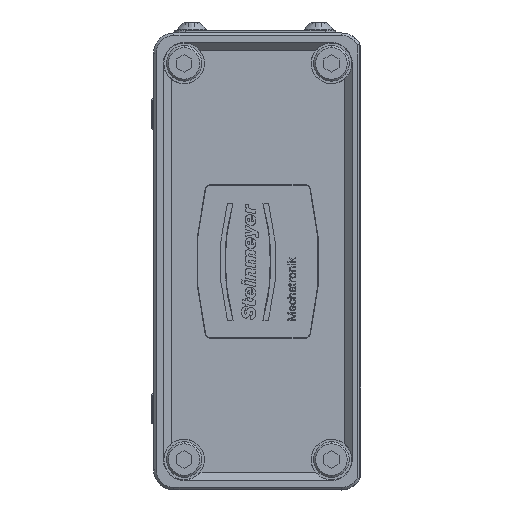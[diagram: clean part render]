
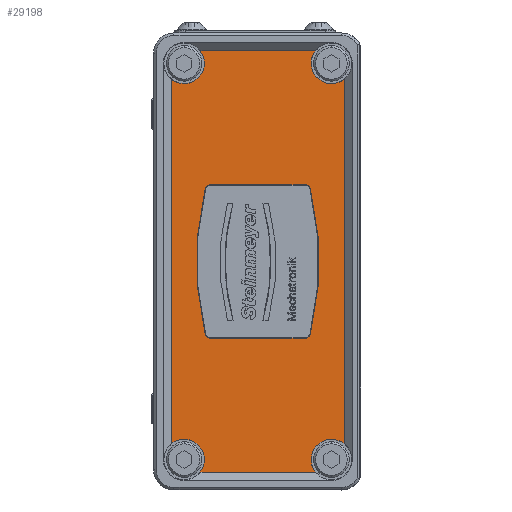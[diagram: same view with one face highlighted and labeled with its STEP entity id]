
A CAD part, left-side view. The second image highlights one B-rep face of the part: STEP entity #29198.
In plain terms, the highlighted planar face has unit normal (-1, 0, 0) as drawn and (0, 0, 1) by its records, which use the part's own axes.
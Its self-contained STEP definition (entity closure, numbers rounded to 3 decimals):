
#4789=CARTESIAN_POINT('',(-39.,6.,117.));
#4790=DIRECTION('',(0.,0.,1.));
#4791=DIRECTION('',(0.781,-0.625,0.));
#4792=AXIS2_PLACEMENT_3D('',#4789,#4790,#4791);
#4797=CARTESIAN_POINT('',(-39.,6.,117.));
#4798=DIRECTION('',(0.,0.,1.));
#4799=DIRECTION('',(0.,1.,0.));
#4800=AXIS2_PLACEMENT_3D('',#4797,#4798,#4799);
#4805=DIRECTION('',(0.,1.,0.));
#4806=VECTOR('',#4805,22.755);
#4807=CARTESIAN_POINT('',(-41.5,9.122,117.));
#4808=LINE('1429',#4807,#4806);
#4812=CARTESIAN_POINT('',(-39.,35.,117.));
#4813=DIRECTION('',(0.,0.,1.));
#4814=DIRECTION('',(-0.625,-0.781,0.));
#4815=AXIS2_PLACEMENT_3D('',#4812,#4813,#4814);
#4820=CARTESIAN_POINT('',(-39.,35.,117.));
#4821=DIRECTION('',(0.,0.,1.));
#4822=DIRECTION('',(0.,-1.,0.));
#4823=AXIS2_PLACEMENT_3D('',#4820,#4821,#4822);
#4828=DIRECTION('',(1.,0.,0.));
#4829=VECTOR('',#4828,71.755);
#4830=CARTESIAN_POINT('',(-35.878,37.5,117.));
#4831=LINE('1432',#4830,#4829);
#4835=CARTESIAN_POINT('',(39.,35.,117.));
#4836=DIRECTION('',(0.,0.,1.));
#4837=DIRECTION('',(-0.781,0.625,0.));
#4838=AXIS2_PLACEMENT_3D('',#4835,#4836,#4837);
#4843=CARTESIAN_POINT('',(39.,35.,117.));
#4844=DIRECTION('',(0.,0.,1.));
#4845=DIRECTION('',(0.,-1.,0.));
#4846=AXIS2_PLACEMENT_3D('',#4843,#4844,#4845);
#4851=DIRECTION('',(0.,-1.,0.));
#4852=VECTOR('',#4851,22.755);
#4853=CARTESIAN_POINT('',(41.5,31.878,117.));
#4854=LINE('1434',#4853,#4852);
#4858=CARTESIAN_POINT('',(39.,6.,117.));
#4859=DIRECTION('',(0.,0.,1.));
#4860=DIRECTION('',(0.625,0.781,0.));
#4861=AXIS2_PLACEMENT_3D('',#4858,#4859,#4860);
#4866=CARTESIAN_POINT('',(39.,6.,117.));
#4867=DIRECTION('',(0.,0.,1.));
#4868=DIRECTION('',(0.,1.,0.));
#4869=AXIS2_PLACEMENT_3D('',#4866,#4867,#4868);
#4874=DIRECTION('',(-1.,0.,0.));
#4875=VECTOR('',#4874,71.755);
#4876=CARTESIAN_POINT('',(35.878,3.5,117.));
#4877=LINE('1437',#4876,#4875);
#4881=CARTESIAN_POINT('',(14.,29.815,117.));
#4882=DIRECTION('',(0.,0.,1.));
#4883=DIRECTION('',(1.,0.,0.));
#4884=AXIS2_PLACEMENT_3D('',#4881,#4882,#4883);
#4889=CARTESIAN_POINT('',(0.,-27.5,117.));
#4890=DIRECTION('',(0.,0.,1.));
#4891=DIRECTION('',(0.237,0.971,0.));
#4892=AXIS2_PLACEMENT_3D('',#4889,#4890,#4891);
#4897=CARTESIAN_POINT('',(-14.,29.815,117.));
#4898=DIRECTION('',(0.,0.,1.));
#4899=DIRECTION('',(-0.237,0.971,0.));
#4900=AXIS2_PLACEMENT_3D('',#4897,#4898,#4899);
#4905=CARTESIAN_POINT('',(-14.,11.185,117.));
#4906=DIRECTION('',(0.,0.,1.));
#4907=DIRECTION('',(-1.,0.,0.));
#4908=AXIS2_PLACEMENT_3D('',#4905,#4906,#4907);
#4913=CARTESIAN_POINT('',(0.,68.5,117.));
#4914=DIRECTION('',(0.,0.,1.));
#4915=DIRECTION('',(-0.237,-0.971,0.));
#4916=AXIS2_PLACEMENT_3D('',#4913,#4914,#4915);
#4921=CARTESIAN_POINT('',(14.,11.185,117.));
#4922=DIRECTION('',(0.,0.,1.));
#4923=DIRECTION('',(0.237,-0.971,0.));
#4924=AXIS2_PLACEMENT_3D('',#4921,#4922,#4923);
#6077=DIRECTION('',(0.,-1.,0.));
#6078=VECTOR('',#6077,18.63);
#6079=CARTESIAN_POINT('',(15.1,29.815,117.));
#6080=LINE('1445',#6079,#6078);
#6112=DIRECTION('',(0.,1.,0.));
#6113=VECTOR('',#6112,18.63);
#6114=CARTESIAN_POINT('',(-15.1,11.185,117.));
#6115=LINE('1441',#6114,#6113);
#22540=CARTESIAN_POINT('',(39.,31.,117.));
#22541=CARTESIAN_POINT('',(41.5,31.878,117.));
#22542=VERTEX_POINT('',#22540);
#22543=VERTEX_POINT('',#22541);
#22549=CARTESIAN_POINT('',(-35.878,3.5,117.));
#22550=CARTESIAN_POINT('',(-39.,10.,117.));
#22551=VERTEX_POINT('',#22549);
#22552=VERTEX_POINT('',#22550);
#22553=CARTESIAN_POINT('',(-41.5,9.122,117.));
#22554=VERTEX_POINT('',#22553);
#22555=CARTESIAN_POINT('',(-41.5,31.878,117.));
#22556=VERTEX_POINT('',#22555);
#22557=CARTESIAN_POINT('',(-39.,31.,117.));
#22558=VERTEX_POINT('',#22557);
#22559=CARTESIAN_POINT('',(-35.878,37.5,117.));
#22560=VERTEX_POINT('',#22559);
#22561=CARTESIAN_POINT('',(35.878,37.5,117.));
#22562=VERTEX_POINT('',#22561);
#22563=CARTESIAN_POINT('',(41.5,9.122,117.));
#22564=VERTEX_POINT('',#22563);
#22565=CARTESIAN_POINT('',(39.,10.,117.));
#22566=VERTEX_POINT('',#22565);
#22567=CARTESIAN_POINT('',(35.878,3.5,117.));
#22568=VERTEX_POINT('',#22567);
#22569=CARTESIAN_POINT('',(15.1,29.815,117.));
#22570=CARTESIAN_POINT('',(14.261,30.884,117.));
#22571=VERTEX_POINT('',#22569);
#22572=VERTEX_POINT('',#22570);
#22573=CARTESIAN_POINT('',(-14.261,30.884,117.));
#22574=VERTEX_POINT('',#22573);
#22575=CARTESIAN_POINT('',(-15.1,29.815,117.));
#22576=VERTEX_POINT('',#22575);
#22577=CARTESIAN_POINT('',(-15.1,11.185,117.));
#22578=VERTEX_POINT('',#22577);
#22579=CARTESIAN_POINT('',(-14.261,10.116,117.));
#22580=VERTEX_POINT('',#22579);
#22581=CARTESIAN_POINT('',(14.261,10.116,117.));
#22582=VERTEX_POINT('',#22581);
#22583=CARTESIAN_POINT('',(15.1,11.185,117.));
#22584=VERTEX_POINT('',#22583);
#29150=CARTESIAN_POINT('',(45.,20.5,117.));
#29151=DIRECTION('',(0.,0.,1.));
#29152=DIRECTION('',(1.,0.,0.));
#29153=AXIS2_PLACEMENT_3D('',#29150,#29151,#29152);
#29154=PLANE('276',#29153);
#29156=ORIENTED_EDGE('1427',*,*,#29155,.T.);
#29158=ORIENTED_EDGE('1428',*,*,#29157,.T.);
#29160=ORIENTED_EDGE('1429',*,*,#29159,.T.);
#29162=ORIENTED_EDGE('1430',*,*,#29161,.T.);
#29164=ORIENTED_EDGE('1431',*,*,#29163,.T.);
#29166=ORIENTED_EDGE('1432',*,*,#29165,.T.);
#29168=ORIENTED_EDGE('1433',*,*,#29167,.T.);
#29169=ORIENTED_EDGE('1421',*,*,#29134,.T.);
#29171=ORIENTED_EDGE('1434',*,*,#29170,.T.);
#29173=ORIENTED_EDGE('1435',*,*,#29172,.T.);
#29175=ORIENTED_EDGE('1436',*,*,#29174,.T.);
#29177=ORIENTED_EDGE('1437',*,*,#29176,.T.);
#29178=EDGE_LOOP('276',(#29156,#29158,#29160,#29162,#29164,#29166,#29168,#29169,
#29171,#29173,#29175,#29177));
#29179=FACE_OUTER_BOUND('276',#29178,.F.);
#29181=ORIENTED_EDGE('1438',*,*,#29180,.T.);
#29183=ORIENTED_EDGE('1439',*,*,#29182,.T.);
#29185=ORIENTED_EDGE('1440',*,*,#29184,.T.);
#29187=ORIENTED_EDGE('1441',*,*,#29186,.F.);
#29189=ORIENTED_EDGE('1442',*,*,#29188,.T.);
#29191=ORIENTED_EDGE('1443',*,*,#29190,.T.);
#29193=ORIENTED_EDGE('1444',*,*,#29192,.T.);
#29195=ORIENTED_EDGE('1445',*,*,#29194,.F.);
#29196=EDGE_LOOP('276',(#29181,#29183,#29185,#29187,#29189,#29191,#29193,
#29195));
#29197=FACE_BOUND('276',#29196,.F.);
#4793=CIRCLE('1427',#4792,4.);
#4801=CIRCLE('1428',#4800,4.);
#4816=CIRCLE('1430',#4815,4.);
#4824=CIRCLE('1431',#4823,4.);
#4839=CIRCLE('1433',#4838,4.);
#4847=CIRCLE('1421',#4846,4.);
#4862=CIRCLE('1435',#4861,4.);
#4870=CIRCLE('1436',#4869,4.);
#4885=CIRCLE('1438',#4884,1.1);
#4893=CIRCLE('1439',#4892,60.1);
#4901=CIRCLE('1440',#4900,1.1);
#4909=CIRCLE('1442',#4908,1.1);
#4917=CIRCLE('1443',#4916,60.1);
#4925=CIRCLE('1444',#4924,1.1);
#29134=EDGE_CURVE('1421',#22542,#22543,#4847,.T.);
#29155=EDGE_CURVE('1427',#22551,#22552,#4793,.T.);
#29157=EDGE_CURVE('1428',#22552,#22554,#4801,.T.);
#29159=EDGE_CURVE('1429',#22554,#22556,#4808,.T.);
#29161=EDGE_CURVE('1430',#22556,#22558,#4816,.T.);
#29163=EDGE_CURVE('1431',#22558,#22560,#4824,.T.);
#29165=EDGE_CURVE('1432',#22560,#22562,#4831,.T.);
#29167=EDGE_CURVE('1433',#22562,#22542,#4839,.T.);
#29170=EDGE_CURVE('1434',#22543,#22564,#4854,.T.);
#29172=EDGE_CURVE('1435',#22564,#22566,#4862,.T.);
#29174=EDGE_CURVE('1436',#22566,#22568,#4870,.T.);
#29176=EDGE_CURVE('1437',#22568,#22551,#4877,.T.);
#29180=EDGE_CURVE('1438',#22571,#22572,#4885,.T.);
#29182=EDGE_CURVE('1439',#22572,#22574,#4893,.T.);
#29184=EDGE_CURVE('1440',#22574,#22576,#4901,.T.);
#29186=EDGE_CURVE('1441',#22578,#22576,#6115,.T.);
#29188=EDGE_CURVE('1442',#22578,#22580,#4909,.T.);
#29190=EDGE_CURVE('1443',#22580,#22582,#4917,.T.);
#29192=EDGE_CURVE('1444',#22582,#22584,#4925,.T.);
#29194=EDGE_CURVE('1445',#22571,#22584,#6080,.T.);
#29198=ADVANCED_FACE('276',(#29179,#29197),#29154,.T.);
